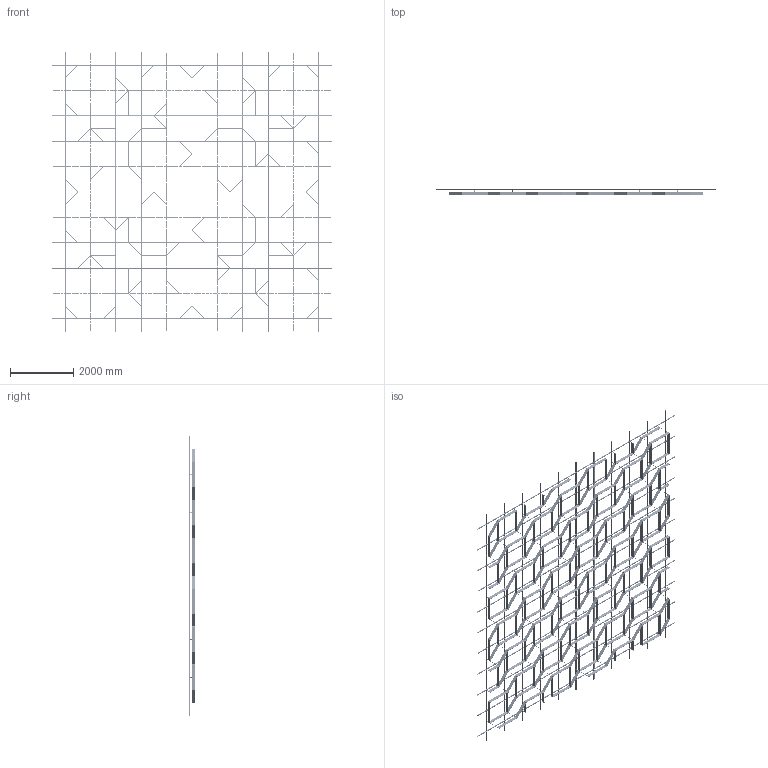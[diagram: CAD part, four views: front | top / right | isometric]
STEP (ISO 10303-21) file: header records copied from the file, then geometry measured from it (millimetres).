
FILE_DESCRIPTION (( 'STEP AP203' ), '1' );
FILE_NAME ('25 ìèäè ñ ïñ.step', '2025-11-26T11:53:50', ( '' ), ( '' ), 'SwSTEP 2.0', 'SolidWorks 2020', '' );
FILE_SCHEMA (( 'CONFIG_CONTROL_DESIGN' ));
Length unit declared in the file: millimetre
Products named in the file (5): 25 ìèäè ñ ïñ; 謶鎷ar25; Ñèñòåìà â çîíå 8000õ8000; SS.SEMA.2400 - Ñèìà-ïðîôèëü — îáðåçàí 1600; SS.SEMA.2400 - Ñèìà-ïðîôèëü
Assembly tree (90 placements, depth 3):
  25 ìèäè ñ ïñ
    Ñèñòåìà â çîíå 8000õ8000
      SS.SEMA.2400 - Ñèìà-ïðîôèëü  x66
      SS.SEMA.2400 - Ñèìà-ïðîôèëü — îáðåçàí 1600  x22
    謶鎷ar25
Bounding box: 8800 x 205 x 8800 mm (x, y, z)
Volume: 199624378.3 mm3; surface area: 77677505.4 mm2
Topology: 1192 solids, 1192 shells, 21588 faces, 56204 edges, 37000 vertices
Faces by surface type: cylinder 13394, plane 8194
Entity records: 132863 total; most frequent: CARTESIAN_POINT 32506, ORIENTED_EDGE 19256, DIRECTION 18674, EDGE_CURVE 9628, AXIS2_PLACEMENT_3D 9088, VERTEX_POINT 6408, EDGE_LOOP 5594, B_SPLINE_CURVE_WITH_KNOTS 5568
